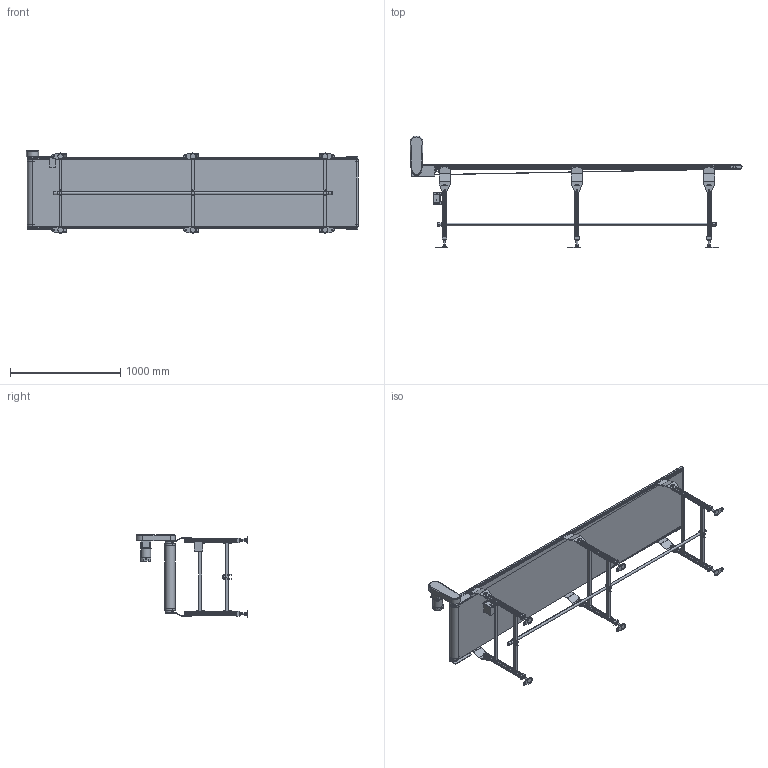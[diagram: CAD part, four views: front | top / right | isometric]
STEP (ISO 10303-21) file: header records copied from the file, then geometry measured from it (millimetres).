
FILE_DESCRIPTION( (''), '2;1');
FILE_NAME ('MB22-OD-309-600-300-L-K-100-O.stp','2025-02-17T10:39:15',(''),(''),'spGate 20.6.2 (****-****-****-****)','','');
FILE_SCHEMA (('AUTOMOTIVE_DESIGN'));
Length unit declared in the file: millimetre
Products named in the file (61): NewModel; MB22-OD-600-3000-L; TEMP_X_T-prt0; TEMP_X_T-prt1; TEMP_X_T-prt2; TEMP_X_T-prt3; TEMP_X_T-prt4; TEMP_X_T-prt5; TEMP_X_T-prt6; TEMP_X_T-prt7; TEMP_X_T-prt8; TEMP_X_T-prt9; TEMP_X_T-prt10; TEMP_X_T-prt11; TEMP_X_T-prt12; TEMP_X_T-prt13; TEMP_X_T-prt14; TEMP_X_T-prt15; TEMP_X_T-prt16; TEMP_X_T-prt17; TEMP_X_T-prt18; TEMP_X_T-prt19; TEMP_X_T-prt20; TEMP_X_T-prt21; TEMP_X_T-prt22; TEMP_X_T-prt23; TEMP_X_T-prt24; TEMP_X_T-prt25; TEMP_X_T-prt26; TEMP_X_T-prt27; TEMP_X_T-prt28; TEMP_X_T-prt29; TEMP_X_T-prt30; TEMP_X_T-prt31; TEMP_X_T-prt32; TEMP_X_T-prt33; TEMP_X_T-prt34; TEMP_X_T-prt35; TEMP_X_T-prt36; TEMP_X_T-prt37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
Assembly tree (60 placements, depth 3):
  NewModel
    MB22-OD-600-3000-L
      TEMP_X_T-prt0
      TEMP_X_T-prt1
      TEMP_X_T-prt2
      TEMP_X_T-prt3
      TEMP_X_T-prt4
      TEMP_X_T-prt5
      TEMP_X_T-prt6
      TEMP_X_T-prt7
      TEMP_X_T-prt8
      TEMP_X_T-prt9
      TEMP_X_T-prt10
      TEMP_X_T-prt11
      TEMP_X_T-prt12
      TEMP_X_T-prt13
      TEMP_X_T-prt14
      TEMP_X_T-prt15
      TEMP_X_T-prt16
      TEMP_X_T-prt17
      TEMP_X_T-prt18
      TEMP_X_T-prt19
      TEMP_X_T-prt20
      TEMP_X_T-prt21
      TEMP_X_T-prt22
      TEMP_X_T-prt23
      TEMP_X_T-prt24
      TEMP_X_T-prt25
      TEMP_X_T-prt26
      TEMP_X_T-prt27
      TEMP_X_T-prt28
      TEMP_X_T-prt29
      TEMP_X_T-prt30
      TEMP_X_T-prt31
      TEMP_X_T-prt32
      TEMP_X_T-prt33
      TEMP_X_T-prt34
      TEMP_X_T-prt35
      TEMP_X_T-prt36
      TEMP_X_T-prt37
      TEMP_X_T-prt38
      TEMP_X_T-prt39
      TEMP_X_T-prt40
      TEMP_X_T-prt41
      TEMP_X_T-prt42
      TEMP_X_T-prt43
      TEMP_X_T-prt44
      TEMP_X_T-prt45
      TEMP_X_T-prt46
      TEMP_X_T-prt47
      TEMP_X_T-prt48
      TEMP_X_T-prt49
      TEMP_X_T-prt50
      TEMP_X_T-prt51
      TEMP_X_T-prt52
      TEMP_X_T-prt53
      TEMP_X_T-prt54
      TEMP_X_T-prt55
      TEMP_X_T-prt56
      TEMP_X_T-prt57
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Bounding box: 3012.15 x 1014.29 x 745.7 mm (x, y, z)
Volume: 24588379.5 mm3; surface area: 14133462.1 mm2
Topology: 59 solids, 59 shells, 2691 faces, 6718 edges, 4327 vertices
Faces by surface type: plane 1901, cylinder 623, bspline 167
Entity records: 138393 total; most frequent: CARTESIAN_POINT 18675, ORIENTED_EDGE 13412, DIRECTION 12794, COLOUR_RGB 9456, PRESENTATION_STYLE_ASSIGNMENT 9456, STYLED_ITEM 9456, EDGE_CURVE 6706, DRAUGHTING_PRE_DEFINED_CURVE_FONT 6706
